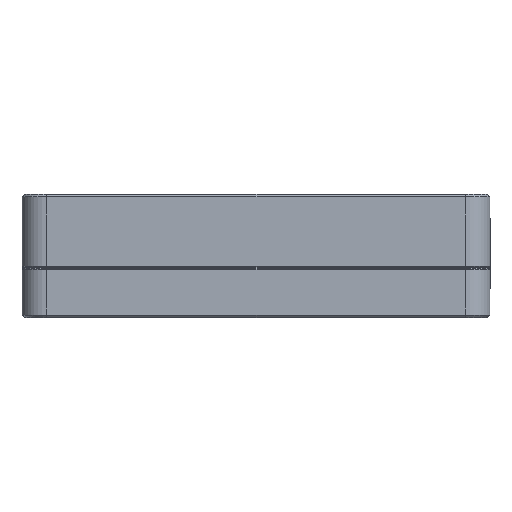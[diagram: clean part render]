
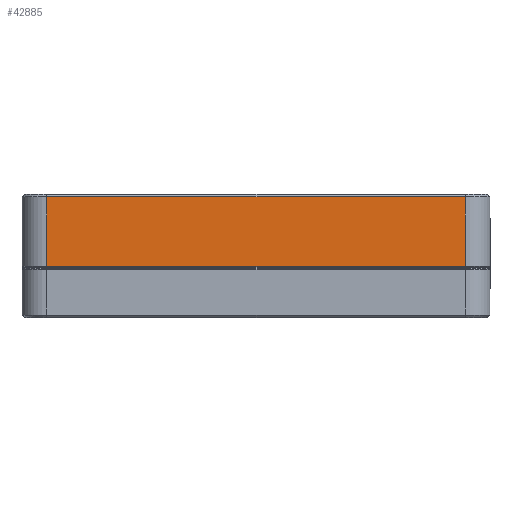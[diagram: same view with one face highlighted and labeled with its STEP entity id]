
A CAD part, front view. The second image highlights one B-rep face of the part: STEP entity #42885.
In plain terms, the highlighted planar face has unit normal (0, -1, 0).
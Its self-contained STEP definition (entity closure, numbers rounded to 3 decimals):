
#669 = CARTESIAN_POINT ( 'NONE',  ( 49.091, -34.312, 111.4 ) ) ;
#1002 = VERTEX_POINT ( 'NONE', #16217 ) ;
#1322 = LINE ( 'NONE', #12185, #18231 ) ;
#2141 = DIRECTION ( 'NONE',  ( -1., 0., 0. ) ) ;
#2612 = CARTESIAN_POINT ( 'NONE',  ( -35.909, -34.312, 125.5 ) ) ;
#3540 = PLANE ( 'NONE',  #18440 ) ;
#3571 = VECTOR ( 'NONE', #2141, 1000. ) ;
#4465 = VECTOR ( 'NONE', #24129, 1000. ) ;
#4958 = LINE ( 'NONE', #19803, #3571 ) ;
#5979 = LINE ( 'NONE', #23419, #4465 ) ;
#7570 = DIRECTION ( 'NONE',  ( 0., 1., 0. ) ) ;
#8298 = EDGE_CURVE ( 'NONE', #23655, #9936, #4958, .T. ) ;
#9936 = VERTEX_POINT ( 'NONE', #2612 ) ;
#10869 = DIRECTION ( 'NONE',  ( 0., 0., 1. ) ) ;
#12185 = CARTESIAN_POINT ( 'NONE',  ( -35.909, -34.312, 111. ) ) ;
#13040 = CARTESIAN_POINT ( 'NONE',  ( 49.091, -34.312, 111.4 ) ) ;
#14212 = ORIENTED_EDGE ( 'NONE', *, *, #37979, .T. ) ;
#14495 = ORIENTED_EDGE ( 'NONE', *, *, #8298, .T. ) ;
#16217 = CARTESIAN_POINT ( 'NONE',  ( -35.909, -34.312, 111.4 ) ) ;
#18231 = VECTOR ( 'NONE', #33773, 1000. ) ;
#18440 = AXIS2_PLACEMENT_3D ( 'NONE', #32001, #7570, #10869 ) ;
#18987 = LINE ( 'NONE', #13040, #32074 ) ;
#19803 = CARTESIAN_POINT ( 'NONE',  ( -40.909, -34.312, 125.5 ) ) ;
#21452 = FACE_OUTER_BOUND ( 'NONE', #35293, .T. ) ;
#22726 = DIRECTION ( 'NONE',  ( 1., 0., 0. ) ) ;
#23419 = CARTESIAN_POINT ( 'NONE',  ( 49.091, -34.312, 111. ) ) ;
#23655 = VERTEX_POINT ( 'NONE', #39703 ) ;
#24129 = DIRECTION ( 'NONE',  ( 0., 0., 1. ) ) ;
#32001 = CARTESIAN_POINT ( 'NONE',  ( -40.909, -34.312, 111. ) ) ;
#32074 = VECTOR ( 'NONE', #22726, 1000. ) ;
#33047 = VERTEX_POINT ( 'NONE', #669 ) ;
#33773 = DIRECTION ( 'NONE',  ( 0., 0., -1. ) ) ;
#35293 = EDGE_LOOP ( 'NONE', ( #37650, #43964, #14212, #14495 ) ) ;
#35719 = EDGE_CURVE ( 'NONE', #1002, #33047, #18987, .T. ) ;
#37650 = ORIENTED_EDGE ( 'NONE', *, *, #40339, .T. ) ;
#37979 = EDGE_CURVE ( 'NONE', #33047, #23655, #5979, .T. ) ;
#39703 = CARTESIAN_POINT ( 'NONE',  ( 49.091, -34.312, 125.5 ) ) ;
#40339 = EDGE_CURVE ( 'NONE', #9936, #1002, #1322, .T. ) ;
#42885 = ADVANCED_FACE ( 'NONE', ( #21452 ), #3540, .F. ) ;
#43964 = ORIENTED_EDGE ( 'NONE', *, *, #35719, .T. ) ;
